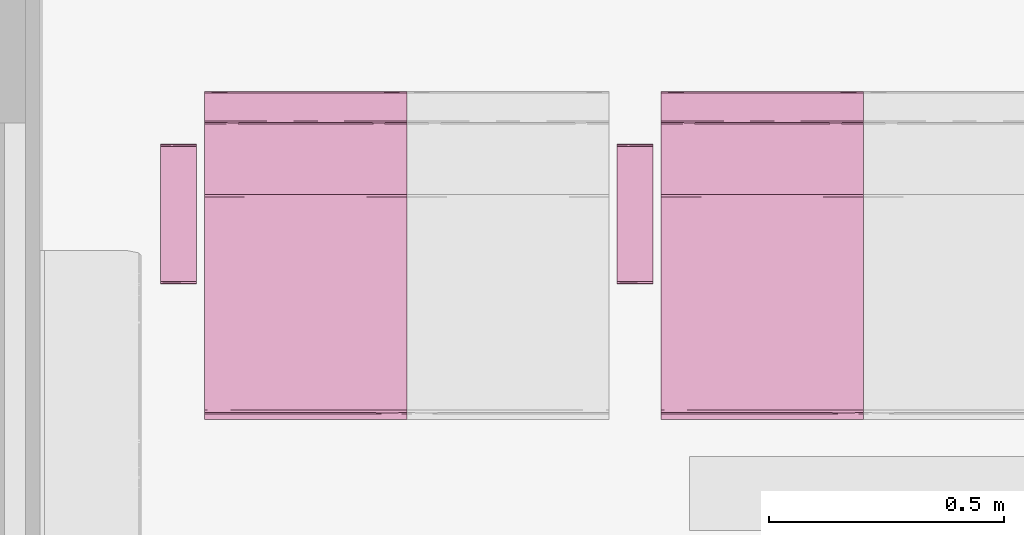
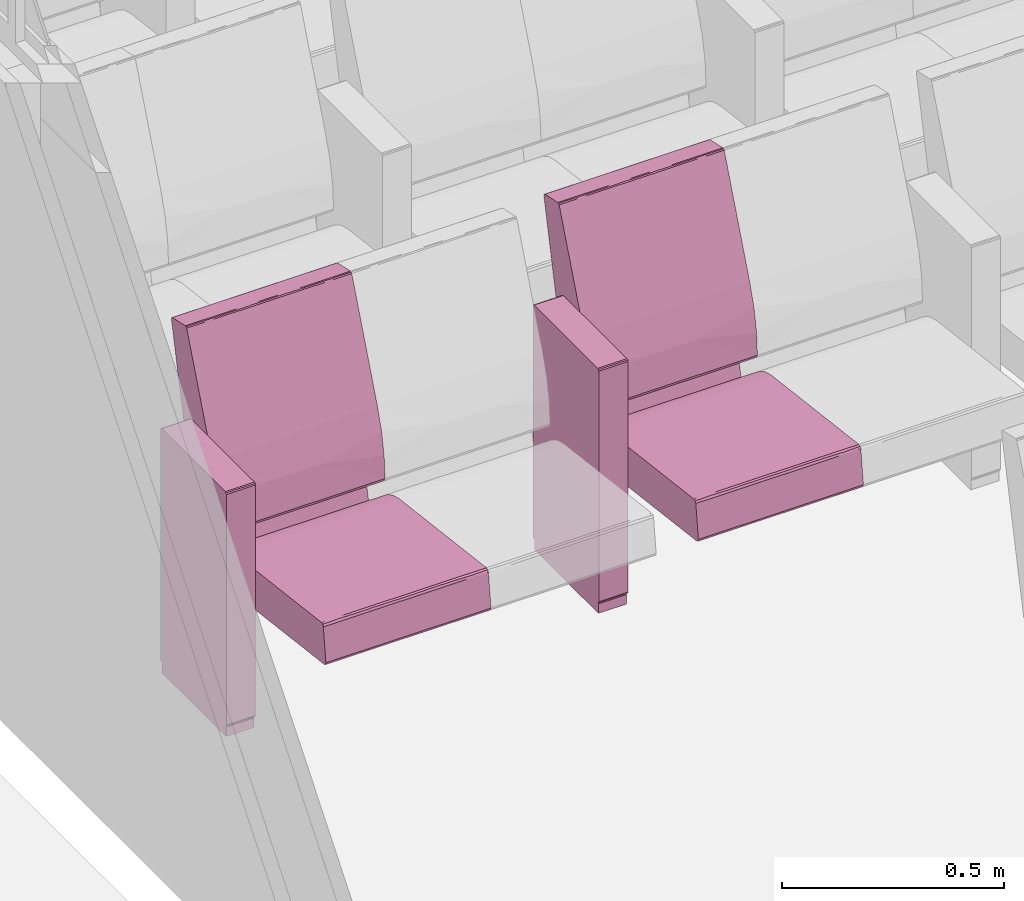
# One storey, part 80 of 155: 2 furnishings.
"""IFC2X3 building model written with IfcOpenShell, lengths in metres."""

from ifc_helpers import new_model, entity, si_unit, converted_unit, derived_unit, direction, frame, origin, place, context, subcontext, project, spatial, faceted_brep, source, transform, mapped, material, material_list, type_object, type_shapes, element, save


model = new_model("IFC2X3")

# Units and contexts
model_context = context("Model", 3, precision=1e-05, world=origin(), true_north=direction((6.12303176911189e-17, 1.0)))
body_context = subcontext(model_context, "Body", "Model", "MODEL_VIEW")
ifc_project = project(units=[si_unit("LENGTHUNIT", "METRE"), si_unit("AREAUNIT", "SQUARE_METRE"), si_unit("VOLUMEUNIT", "CUBIC_METRE"), converted_unit("PLANEANGLEUNIT", "DEGREE", entity("IfcRatioMeasure", 0.0174532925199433), si_unit("PLANEANGLEUNIT", "RADIAN"), dimensions=[0, 0, 0, 0, 0, 0, 0]), si_unit("MASSUNIT", "GRAM", prefix="KILO"), derived_unit("MASSDENSITYUNIT", [(si_unit("MASSUNIT", "GRAM", prefix="KILO"), 1), (si_unit("LENGTHUNIT", "METRE"), -3)]), si_unit("TIMEUNIT", "SECOND"), si_unit("FREQUENCYUNIT", "HERTZ"), si_unit("THERMODYNAMICTEMPERATUREUNIT", "DEGREE_CELSIUS"), derived_unit("THERMALTRANSMITTANCEUNIT", [(si_unit("MASSUNIT", "GRAM", prefix="KILO"), 1), (si_unit("THERMODYNAMICTEMPERATUREUNIT", "KELVIN"), -1), (si_unit("TIMEUNIT", "SECOND"), -3)]), derived_unit("VOLUMETRICFLOWRATEUNIT", [(si_unit("LENGTHUNIT", "METRE"), 3), (si_unit("TIMEUNIT", "SECOND"), -1)]), si_unit("ELECTRICCURRENTUNIT", "AMPERE"), si_unit("ELECTRICVOLTAGEUNIT", "VOLT"), si_unit("POWERUNIT", "WATT"), si_unit("FORCEUNIT", "NEWTON", prefix="KILO"), si_unit("ILLUMINANCEUNIT", "LUX"), si_unit("LUMINOUSFLUXUNIT", "LUMEN"), si_unit("LUMINOUSINTENSITYUNIT", "CANDELA"), derived_unit("USERDEFINED", [(si_unit("MASSUNIT", "GRAM", prefix="KILO"), -1), (si_unit("LENGTHUNIT", "METRE"), -2), (si_unit("TIMEUNIT", "SECOND"), 3), (si_unit("LUMINOUSFLUXUNIT", "LUMEN"), 1)]), derived_unit("LINEARVELOCITYUNIT", [(si_unit("LENGTHUNIT", "METRE"), 1), (si_unit("TIMEUNIT", "SECOND"), -1)]), si_unit("PRESSUREUNIT", "PASCAL"), derived_unit("USERDEFINED", [(si_unit("LENGTHUNIT", "METRE"), -2), (si_unit("MASSUNIT", "GRAM", prefix="KILO"), 1), (si_unit("TIMEUNIT", "SECOND"), -2)])], contexts=[model_context])

# Site, building, storey, space
site_placement = place(None, frame((26.9889013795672, -17.5624287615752, 0.0)))
site = spatial("IfcSite", under=ifc_project, at=site_placement, Name="Default", CompositionType="ELEMENT")
building_placement = place(site_placement, origin())
building = spatial("IfcBuilding", under=site, at=building_placement, Name="C. C. L. Monsenhor Antônio Sampaio", CompositionType="ELEMENT")
storey_placement = place(building_placement, frame((0.0, 0.0, 1.19999999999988)))
storey = spatial("IfcBuildingStorey", under=building, at=storey_placement, Name="Nível 1.2", CompositionType="ELEMENT", Elevation=1.19999999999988)
space_placement = place(storey_placement, origin())
space = spatial("IfcSpace", under=storey, at=space_placement, Name="94", CompositionType="ELEMENT", InteriorOrExteriorSpace="INTERNAL")

# Furnishings
ifc_material_1 = material(Name="V9 - V9 - Ecopelle_672_658")
ifc_material_2 = material(Name="V9 - V9 - RAL_9006_Grigio")
ifc_material_list_1 = material_list([ifc_material_1, ifc_material_2])
ifc_material_list_2 = material_list([ifc_material_1, ifc_material_2])
furniture_type = type_object("IfcFurnitureType", Name="Cadeira auditório", material=ifc_material_list_2)
shared_shape = source(origin(), body_context, "Body", "Brep", [
    faceted_brep([(0.405536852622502, 0.156348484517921, 0.339809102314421), (0.410560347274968, 0.131924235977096, 0.34246450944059), (0.405536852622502, 0.1075, 0.339809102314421), (0.405536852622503, 0.0537499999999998, 0.339809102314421), (0.410597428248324, 0.084060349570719, 0.342506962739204), (0.41079981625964, 0.0179166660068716, 0.342749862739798), (0.405536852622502, 0.215, 0.339809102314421), (0.410248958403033, 0.173608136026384, 0.342130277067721), (0.412515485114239, 0.185674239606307, 0.348529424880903), (0.412515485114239, 0.143333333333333, 0.348529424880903), (0.410560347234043, -0.131924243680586, 0.342464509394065), (0.405536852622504, -0.156348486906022, 0.33980910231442), (0.405536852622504, -0.1075, 0.33980910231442), (0.405536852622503, 0.0, 0.33980910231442), (0.41251548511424, 0.0, 0.348529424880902), (0.411170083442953, -0.0341365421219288, 0.343251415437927), (0.41059742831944, -0.0840603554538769, 0.342506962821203), (0.41251548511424, -0.143333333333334, 0.348529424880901), (0.412515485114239, 0.0358333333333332, 0.348529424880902), (0.412515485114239, 0.0716666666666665, 0.348529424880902), (0.405536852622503, -0.0537500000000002, 0.33980910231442), (0.412515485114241, -0.185674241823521, 0.348529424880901), (0.410799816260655, -0.215, 0.342749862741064), (0.410248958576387, -0.173608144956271, 0.342130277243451), (0.410799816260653, 0.215, 0.342749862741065), (0.412515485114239, 0.215, 0.348529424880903), (0.412515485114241, -0.215, 0.348529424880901), (0.41251548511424, -0.0716666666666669, 0.348529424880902), (0.405536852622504, -0.215, 0.33980910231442), (-0.0557900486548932, -0.215, 0.28268145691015), (-0.055790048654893, -0.168631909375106, 0.282681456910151), (-0.0557900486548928, -0.138065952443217, 0.282681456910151), (-0.0557900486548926, -0.107499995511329, 0.282681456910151), (-0.0557900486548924, -0.0806249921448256, 0.282681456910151), (-0.0557900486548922, -0.0537499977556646, 0.282681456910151), (-0.0557900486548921, -0.0268750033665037, 0.282681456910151), (-0.0557900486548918, 0.0, 0.28268145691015), (-0.0557900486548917, 0.0268749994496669, 0.282681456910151), (-0.0557900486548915, 0.0537499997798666, 0.282681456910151), (-0.0557900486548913, 0.0806250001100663, 0.282681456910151), (-0.0557900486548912, 0.107499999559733, 0.282681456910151), (-0.055790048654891, 0.134374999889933, 0.282681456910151), (-0.0557900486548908, 0.161250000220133, 0.282681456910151), (-0.0557900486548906, 0.1881249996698, 0.282681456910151), (-0.0557900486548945, 0.215, 0.28268145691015), (-0.0594787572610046, -0.0152829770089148, 0.283700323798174), (-0.0613666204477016, 0.0, 0.287029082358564), (-0.0594787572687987, 0.0179017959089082, 0.283700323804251), (-0.0613666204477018, 0.191815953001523, 0.287029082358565), (-0.0613666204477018, 0.215, 0.287029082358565), (-0.0594787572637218, 0.215, 0.283700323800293), (-0.0593340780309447, 0.0671874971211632, 0.283591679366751), (-0.0613666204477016, 0.030565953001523, 0.287029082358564), (-0.0594787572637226, -0.215, 0.283700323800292), (-0.0593337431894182, -0.184174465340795, 0.283591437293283), (-0.0613666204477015, -0.122263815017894, 0.287029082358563), (-0.0613666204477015, -0.0916978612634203, 0.287029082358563), (-0.0613666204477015, -0.0611319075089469, 0.287029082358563), (-0.0593023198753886, -0.0940625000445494, 0.283568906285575), (-0.059382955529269, 0.118123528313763, 0.28362747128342), (-0.0613666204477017, 0.122263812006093, 0.287029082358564), (-0.0597338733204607, 0.147039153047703, 0.283913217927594), (-0.0613666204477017, 0.168631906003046, 0.287029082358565), (-0.0592501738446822, 0.180223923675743, 0.283532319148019), (-0.0588783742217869, 0.0926899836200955, 0.283298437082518), (-0.0613666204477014, -0.215, 0.287029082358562), (-0.0613666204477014, -0.168631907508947, 0.287029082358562), (-0.0592576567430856, -0.123736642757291, 0.283537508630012), (-0.0594787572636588, -0.153348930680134, 0.283700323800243), (-0.0613666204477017, 0.0916978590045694, 0.287029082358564), (-0.0613666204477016, -0.0305659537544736, 0.287029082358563), (-0.059645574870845, -0.045848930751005, 0.283836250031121), (-0.0613666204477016, 0.0611319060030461, 0.287029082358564), (-0.069340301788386, -0.215, 0.351419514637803), (-0.0693403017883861, -0.143333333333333, 0.351419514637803), (-0.0693403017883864, -0.0716666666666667, 0.351419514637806), (-0.0693403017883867, 0.0, 0.351419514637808), (-0.069340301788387, 0.0716666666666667, 0.351419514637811), (-0.0693403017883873, 0.143333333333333, 0.351419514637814), (-0.0693403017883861, 0.215, 0.351419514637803), (-0.0597085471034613, 0.0, 0.37476954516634), (-0.0645543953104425, 0.112272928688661, 0.369803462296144), (-0.0653387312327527, 0.0126787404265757, 0.368680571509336), (-0.0681665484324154, -0.0888707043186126, 0.36292533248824), (-0.0655136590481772, -0.10440004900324, 0.368411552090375), (-0.0694879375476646, 0.0590582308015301, 0.356377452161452), (-0.0695056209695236, -0.125492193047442, 0.356093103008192), (-0.0597085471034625, -0.110316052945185, 0.374769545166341), (-0.0690003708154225, 0.132942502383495, 0.359900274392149), (-0.0672851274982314, 0.108066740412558, 0.365148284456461), (-0.0676206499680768, 0.215, 0.364371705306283), (-0.0686241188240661, 0.215, 0.356813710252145), (-0.0686241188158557, -0.214999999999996, 0.356813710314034), (-0.0686999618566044, 0.0358333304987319, 0.36116674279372), (-0.0694502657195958, -0.0358333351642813, 0.356863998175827), (-0.0676206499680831, -0.214999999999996, 0.364371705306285), (-0.0636645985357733, -0.214999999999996, 0.369570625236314), (-0.0597085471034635, -0.214999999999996, 0.374769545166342), (-0.0597085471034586, 0.215, 0.374769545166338), (-0.0636645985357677, 0.215, 0.36957062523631), (-0.0597085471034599, 0.110316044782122, 0.374769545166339), (-0.0324117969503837, 0.215, 0.390639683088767), (-0.0324117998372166, 0.0436847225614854, 0.39063968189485), (-0.0018793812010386, 0.215, 0.398686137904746), (-0.041847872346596, -0.0856576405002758, 0.386239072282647), (-0.0324117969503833, -0.215, 0.390639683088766), (-0.00187938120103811, -0.215, 0.398686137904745), (-0.00187938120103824, -0.102488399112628, 0.398686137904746), (-0.0219042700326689, -0.0570631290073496, 0.394412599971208), (-0.00187938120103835, 0.0, 0.398686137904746), (0.392202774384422, 0.215, 0.447486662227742), (0.392202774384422, -0.215, 0.447486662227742), (0.392202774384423, -0.156349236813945, 0.447486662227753), (0.392202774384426, -0.107499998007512, 0.447486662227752), (0.392202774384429, -0.0537500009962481, 0.44748666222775), (0.392202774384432, 0.0, 0.447486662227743), (0.392202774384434, 0.0537499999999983, 0.447486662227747), (0.392202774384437, 0.107499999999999, 0.447486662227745), (0.392202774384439, 0.156349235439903, 0.447486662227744), (0.398104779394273, -0.131924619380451, 0.445856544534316), (0.401125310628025, -0.0976984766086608, 0.440530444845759), (0.397860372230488, -0.0827732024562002, 0.446039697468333), (0.401125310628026, -0.215000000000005, 0.440530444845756), (0.401125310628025, -0.156349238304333, 0.440530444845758), (0.397373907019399, -0.173462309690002, 0.446363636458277), (0.398104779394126, -0.215000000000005, 0.445856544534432), (0.397860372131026, 0.0827731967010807, 0.446039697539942), (0.398104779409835, 0.131924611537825, 0.445856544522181), (0.398104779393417, -0.0237489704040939, 0.445856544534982), (0.398104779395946, 0.0268749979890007, 0.445856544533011), (0.401125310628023, 0.0488492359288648, 0.440530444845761), (0.401125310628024, -0.0488492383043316, 0.440530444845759), (0.398774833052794, 0.173462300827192, 0.445271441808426), (0.401125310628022, 0.097698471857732, 0.440530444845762), (0.401125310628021, 0.215, 0.440530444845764), (0.39810477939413, 0.215, 0.445856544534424), (0.401125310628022, 0.156349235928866, 0.440530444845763), (0.401125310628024, 0.0, 0.44053044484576)], [[[0, 1, 2]], [[3, 4, 5]], [[6, 7, 0]], [[7, 8, 9]], [[10, 11, 12]], [[3, 5, 13]], [[14, 15, 5]], [[16, 17, 10]], [[9, 1, 7]], [[18, 5, 4]], [[4, 9, 19, 18]], [[9, 4, 1]], [[2, 1, 4]], [[13, 15, 20]], [[21, 22, 23]], [[5, 18, 14]], [[24, 25, 8]], [[22, 21, 26]], [[24, 7, 6]], [[23, 11, 10]], [[20, 15, 16]], [[3, 2, 4]], [[14, 27, 15]], [[5, 15, 13]], [[27, 17, 16]], [[10, 12, 16]], [[21, 23, 17]], [[20, 16, 12]], [[15, 27, 16]], [[7, 1, 0]], [[28, 11, 23]], [[8, 7, 24]], [[23, 10, 17]], [[28, 23, 22]], [[28, 29, 30, 31, 32, 33, 34, 35, 36, 37, 38, 39, 40, 41, 42, 43, 44, 6, 0, 2, 3, 13, 20, 12, 11]], [[45, 46, 47]], [[48, 49, 50]], [[51, 47, 52]], [[29, 53, 54]], [[55, 56, 57, 58]], [[59, 60, 61]], [[61, 62, 63]], [[51, 64, 39]], [[65, 66, 54]], [[31, 67, 32]], [[45, 47, 38, 37, 36, 35]], [[68, 31, 30]], [[43, 50, 44]], [[63, 42, 61]], [[48, 50, 63]], [[64, 69, 59]], [[68, 54, 66]], [[63, 62, 48]], [[50, 43, 63]], [[67, 55, 58]], [[61, 42, 41]], [[45, 70, 46]], [[55, 68, 66]], [[71, 33, 58]], [[71, 57, 70]], [[41, 40, 59]], [[60, 62, 61]], [[71, 35, 34, 33]], [[35, 71, 45]], [[47, 46, 52]], [[45, 71, 70]], [[58, 57, 71]], [[32, 58, 33]], [[31, 68, 67]], [[54, 68, 30]], [[29, 54, 30]], [[54, 53, 65]], [[55, 67, 68]], [[32, 67, 58]], [[51, 52, 72, 69]], [[43, 42, 63]], [[41, 59, 61]], [[47, 51, 38]], [[40, 39, 64]], [[38, 51, 39]], [[69, 60, 59]], [[69, 64, 51]], [[40, 64, 59]], [[65, 73, 74, 75, 76, 77, 78, 79, 49, 48, 62, 60, 69, 72, 52, 46, 70, 57, 56, 55, 66]], [[80, 81, 82]], [[82, 83, 84]], [[78, 77, 76, 85]], [[86, 75, 74]], [[84, 80, 82]], [[80, 84, 87]], [[88, 89, 90]], [[91, 79, 78]], [[74, 73, 92]], [[85, 88, 91]], [[81, 89, 82]], [[93, 94, 83]], [[94, 86, 83]], [[85, 76, 94]], [[92, 86, 74]], [[85, 94, 93]], [[83, 92, 95]], [[75, 94, 76]], [[93, 83, 82]], [[95, 96, 84]], [[88, 85, 93]], [[96, 97, 87]], [[98, 99, 100]], [[78, 85, 91]], [[89, 88, 93]], [[90, 91, 88]], [[93, 82, 89]], [[81, 99, 89]], [[99, 90, 89]], [[100, 81, 80]], [[100, 99, 81]], [[83, 86, 92]], [[75, 86, 94]], [[95, 84, 83]], [[87, 84, 96]], [[101, 102, 103]], [[104, 80, 87, 97]], [[105, 106, 107]], [[107, 108, 105]], [[103, 102, 109]], [[104, 102, 80]], [[104, 108, 102]], [[98, 102, 101]], [[105, 104, 97]], [[105, 108, 104]], [[102, 98, 100, 80]], [[109, 108, 107]], [[109, 102, 108]], [[110, 103, 109, 107, 106, 111, 112, 113, 114, 115, 116, 117, 118]], [[119, 120, 121]], [[122, 123, 124]], [[111, 125, 124]], [[117, 116, 126]], [[124, 119, 112]], [[113, 112, 119]], [[127, 118, 117]], [[115, 114, 128, 129, 116]], [[129, 130, 126]], [[121, 131, 128]], [[127, 132, 118]], [[110, 118, 132]], [[127, 126, 133]], [[119, 124, 123]], [[134, 135, 132]], [[136, 132, 127]], [[120, 119, 123]], [[133, 136, 127]], [[137, 130, 129, 128, 131]], [[126, 127, 117]], [[130, 133, 126]], [[113, 119, 121]], [[129, 126, 116]], [[128, 114, 121]], [[114, 113, 121]], [[131, 121, 120]], [[111, 124, 112]], [[124, 125, 122]], [[134, 132, 136]], [[132, 135, 110]], [[19, 9, 8, 25, 134, 136, 133, 130, 137, 131, 120, 123, 122, 26, 21, 17, 27, 14, 18]], [[65, 53, 29, 28, 22, 26, 122, 125, 111, 106, 105, 97, 96, 95, 92, 73]], [[98, 101, 103, 110, 135, 134, 25, 24, 6, 44, 50, 49, 79, 91, 90, 99]]]),
    faceted_brep([(0.123144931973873, -0.283972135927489, 0.673627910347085), (0.12334838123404, -0.259944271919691, 0.6734355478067), (0.119812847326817, -0.27, 0.674900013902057), (0.124812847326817, -0.27, 0.669900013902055), (0.12334838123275, -0.232, 0.673435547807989), (0.119812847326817, -0.232, 0.674900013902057), (0.124812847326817, -0.308, 0.669900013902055), (0.119812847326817, -0.308, 0.674900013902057), (0.124812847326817, -0.249888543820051, 0.669900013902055), (0.124812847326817, -0.232, 0.669900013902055), (0.12334838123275, -0.308, 0.673435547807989), (0.124812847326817, -0.27, 0.035), (0.124812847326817, -0.232, 0.035), (0.124812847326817, -0.308, 0.0350000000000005), (0.123540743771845, -0.283972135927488, 0.0316679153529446), (0.12334838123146, -0.25994427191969, 0.0314644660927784), (0.119812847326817, -0.27, 0.0300000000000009), (0.12334838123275, -0.232, 0.0314644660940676), (0.119812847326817, -0.308, 0.0300000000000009), (0.119812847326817, -0.249888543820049, 0.030000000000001), (0.119812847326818, -0.232, 0.030000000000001), (0.123348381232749, -0.308, 0.0314644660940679), (-0.167179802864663, -0.308, 0.0300000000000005), (-0.167179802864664, -0.27, 0.0300000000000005), (-0.167179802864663, -0.232, 0.0300000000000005), (-0.17051188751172, -0.283972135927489, 0.0312721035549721), (-0.170715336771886, -0.25994427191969, 0.0314644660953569), (-0.172179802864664, -0.27, 0.0350000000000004), (-0.170715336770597, -0.232, 0.0314644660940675), (-0.172179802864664, -0.308, 0.0350000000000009), (-0.172179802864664, -0.24988854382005, 0.0350000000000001), (-0.172179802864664, -0.232, 0.0349999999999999), (-0.170715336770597, -0.308, 0.0314644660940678), (-0.172179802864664, -0.308, 0.669900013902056), (-0.172179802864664, -0.27, 0.669900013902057), (-0.172179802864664, -0.232, 0.669900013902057), (-0.170907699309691, -0.283972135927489, 0.673232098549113), (-0.170715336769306, -0.259944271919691, 0.673435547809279), (-0.167179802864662, -0.27, 0.674900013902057), (-0.170715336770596, -0.232, 0.67343554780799), (-0.167179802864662, -0.308, 0.674900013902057), (-0.167179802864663, -0.249888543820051, 0.674900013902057), (-0.167179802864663, -0.232, 0.674900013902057), (-0.170715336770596, -0.308, 0.67343554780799)], [[[0, 1, 2]], [[1, 0, 3]], [[1, 4, 5, 2]], [[6, 3, 0]], [[7, 0, 2]], [[4, 1, 3, 8, 9]], [[10, 0, 7]], [[0, 10, 6]], [[11, 12, 9, 8, 3, 6, 13]], [[14, 15, 11]], [[15, 14, 16]], [[15, 17, 12, 11]], [[18, 16, 14]], [[13, 14, 11]], [[17, 15, 16, 19, 20]], [[21, 14, 13]], [[14, 21, 18]], [[18, 22, 23, 24, 20, 19, 16]], [[25, 26, 23]], [[26, 25, 27]], [[26, 28, 24, 23]], [[29, 27, 25]], [[22, 25, 23]], [[28, 26, 27, 30, 31]], [[32, 25, 22]], [[25, 32, 29]], [[27, 29, 33, 34, 35, 31, 30]], [[36, 37, 34]], [[37, 36, 38]], [[37, 39, 35, 34]], [[40, 38, 36]], [[33, 36, 34]], [[39, 37, 38, 41, 42]], [[43, 36, 33]], [[36, 43, 40]], [[40, 7, 2, 5, 42, 41, 38]], [[35, 39, 42, 5, 4, 9, 12, 17, 20, 24, 28, 31]], [[29, 32, 22, 18, 21, 13, 6, 10, 7, 40, 43, 33]]]),
    faceted_brep([(-0.0695672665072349, 0.215, 0.476508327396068), (-0.074405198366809, 0.0524423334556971, 0.506888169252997), (-0.0655618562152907, 0.215, 0.415143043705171), (-0.0744051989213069, -0.0780075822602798, 0.506888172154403), (-0.0655618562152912, 0.0, 0.415143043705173), (-0.0655618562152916, -0.215, 0.415143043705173), (-0.0655618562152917, -0.1075, 0.415143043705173), (-0.0655618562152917, 0.1075, 0.415143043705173), (-0.0695672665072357, -0.215, 0.476508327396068), (-0.081111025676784, -0.215, 0.536911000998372), (-0.0811110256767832, 0.215, 0.536911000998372), (-0.100016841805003, 0.215, 0.595428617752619), (-0.100016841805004, 0.0, 0.595428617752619), (-0.100016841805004, -0.215, 0.595428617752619), (-0.0698317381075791, 0.0358333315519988, 0.406528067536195), (-0.0792851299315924, 0.0, 0.404772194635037), (-0.0792851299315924, 0.0716666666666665, 0.404772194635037), (-0.0792851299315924, -0.215, 0.404772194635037), (-0.0792851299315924, -0.143333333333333, 0.404772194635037), (-0.0698317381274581, -0.215, 0.406528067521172), (-0.0792851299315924, 0.143333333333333, 0.404772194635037), (-0.0792851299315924, 0.215, 0.404772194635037), (-0.0698317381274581, 0.215, 0.406528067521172), (-0.0694171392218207, 0.140338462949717, 0.406857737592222), (-0.0708115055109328, -0.0356393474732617, 0.405868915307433), (-0.0703502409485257, -0.107500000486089, 0.406159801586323), (-0.0792851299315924, -0.0716666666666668, 0.404772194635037), (-0.163837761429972, -0.215, 0.420611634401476), (-0.163837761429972, 0.215, 0.420611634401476), (-0.123612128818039, 0.215, 0.235917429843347), (-0.123612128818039, -0.215, 0.235917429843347), (-0.142059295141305, -0.215, 0.231899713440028), (-0.142059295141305, 0.215, 0.231899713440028), (-0.235388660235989, -0.215, 0.652619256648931), (-0.235388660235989, 0.215, 0.652619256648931), (-0.28428001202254, -0.215, 0.873004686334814), (-0.284280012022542, -0.191295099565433, 0.873004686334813), (-0.284280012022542, -0.161249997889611, 0.873004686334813), (-0.284280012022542, -0.134374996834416, 0.873004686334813), (-0.284280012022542, -0.107499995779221, 0.873004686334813), (-0.284280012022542, -0.0806249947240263, 0.873004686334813), (-0.284280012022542, -0.0537499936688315, 0.873004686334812), (-0.284280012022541, -0.0268749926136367, 0.873004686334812), (-0.28428001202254, 0.0, 0.873004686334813), (-0.284280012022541, 0.0268749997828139, 0.873004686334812), (-0.284280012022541, 0.0537500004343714, 0.873004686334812), (-0.284280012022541, 0.0806250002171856, 0.873004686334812), (-0.284280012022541, 0.1075, 0.873004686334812), (-0.284280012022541, 0.134374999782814, 0.873004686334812), (-0.28428001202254, 0.161249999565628, 0.873004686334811), (-0.28428001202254, 0.191295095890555, 0.873004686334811), (-0.28428001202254, 0.215, 0.873004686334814), (-0.283746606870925, 0.0872244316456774, 0.876674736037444), (-0.283504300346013, 0.0569644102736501, 0.877068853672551), (-0.283567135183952, -0.15546176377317, 0.876973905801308), (-0.283641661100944, -0.12093750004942, 0.87685511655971), (-0.283567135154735, 0.155461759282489, 0.876973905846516), (-0.28330409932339, 0.185293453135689, 0.877344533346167), (-0.283641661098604, 0.0179166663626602, 0.876855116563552), (-0.283641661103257, -0.0136463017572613, 0.876855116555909), (-0.280514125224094, -0.0358333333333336, 0.879190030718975), (-0.280514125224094, 0.0, 0.879190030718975), (-0.280514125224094, 0.0358333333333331, 0.879190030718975), (-0.280514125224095, -0.143333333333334, 0.879190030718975), (-0.280514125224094, -0.1075, 0.879190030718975), (-0.280514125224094, -0.071666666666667, 0.879190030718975), (-0.283746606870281, -0.0872244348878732, 0.876674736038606), (-0.280514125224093, 0.0716666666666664, 0.879190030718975), (-0.280514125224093, 0.1075, 0.879190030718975), (-0.283641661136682, 0.120937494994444, 0.876855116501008), (-0.280514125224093, 0.143333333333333, 0.879190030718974), (-0.283641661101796, 0.215, 0.876855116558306), (-0.283641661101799, -0.215, 0.876855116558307), (-0.283304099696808, -0.18529345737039, 0.877344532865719), (-0.280514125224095, -0.167590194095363, 0.879190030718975), (-0.280514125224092, 0.215, 0.879190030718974), (-0.280514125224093, 0.167590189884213, 0.879190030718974), (-0.280514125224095, -0.215, 0.879190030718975), (-0.283504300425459, -0.0569644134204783, 0.8770688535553), (-0.22111253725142, 0.215, 0.892176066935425), (-0.22111253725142, -0.215, 0.892176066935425), (-0.221112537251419, -0.191815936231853, 0.892176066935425), (-0.221112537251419, -0.161250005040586, 0.892176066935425), (-0.221112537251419, -0.134375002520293, 0.892176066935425), (-0.221112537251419, -0.1075, 0.892176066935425), (-0.221112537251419, -0.080624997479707, 0.892176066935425), (-0.221112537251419, -0.0537499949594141, 0.892176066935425), (-0.221112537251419, -0.0268750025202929, 0.892176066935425), (-0.221112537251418, 0.0, 0.892176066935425), (-0.221112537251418, 0.0268750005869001, 0.892176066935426), (-0.221112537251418, 0.05375000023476, 0.892176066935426), (-0.221112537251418, 0.0806249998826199, 0.892176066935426), (-0.221112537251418, 0.10749999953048, 0.892176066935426), (-0.221112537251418, 0.13437499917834, 0.892176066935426), (-0.221112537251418, 0.16124999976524, 0.892176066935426), (-0.221112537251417, 0.19181594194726, 0.892176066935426), (-0.215419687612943, 0.0, 0.889191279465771), (-0.215419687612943, 0.0358333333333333, 0.889191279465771), (-0.217722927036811, 0.0162353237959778, 0.891719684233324), (-0.217722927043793, -0.0134375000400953, 0.891719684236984), (-0.215419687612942, -0.191815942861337, 0.889191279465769), (-0.215419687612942, -0.168631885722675, 0.889191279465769), (-0.217722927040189, -0.182482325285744, 0.891719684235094), (-0.217722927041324, -0.215, 0.891719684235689), (-0.215419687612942, -0.215, 0.889191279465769), (-0.215419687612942, -0.1075, 0.88919127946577), (-0.215419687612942, -0.0716666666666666, 0.88919127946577), (-0.217722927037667, -0.0912646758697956, 0.891719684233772), (-0.217722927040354, -0.120937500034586, 0.89171968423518), (-0.215419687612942, -0.143333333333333, 0.88919127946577), (-0.215419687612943, 0.191815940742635, 0.889191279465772), (-0.215419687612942, 0.215, 0.889191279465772), (-0.217722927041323, 0.215, 0.89171968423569), (-0.217722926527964, 0.190103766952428, 0.891719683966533), (-0.217722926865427, 0.0912646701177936, 0.891719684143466), (-0.217816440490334, 0.0647800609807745, 0.891767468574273), (-0.215419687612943, 0.0716666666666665, 0.889191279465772), (-0.217816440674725, -0.0647800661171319, 0.891767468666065), (-0.2179983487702, -0.0390825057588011, 0.891853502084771), (-0.217558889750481, -0.155982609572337, 0.891629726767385), (-0.217722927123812, 0.120937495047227, 0.891719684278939), (-0.215419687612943, 0.16863188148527, 0.889191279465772), (-0.215419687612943, 0.143333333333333, 0.889191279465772), (-0.217558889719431, 0.15598260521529, 0.891629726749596), (-0.215419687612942, -0.0358333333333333, 0.889191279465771), (-0.215419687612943, 0.1075, 0.889191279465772), (-0.218257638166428, 0.0404491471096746, 0.891961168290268)], [[[0, 1, 2]], [[1, 3, 4]], [[3, 5, 6, 4]], [[1, 4, 7, 2]], [[5, 3, 8]], [[8, 3, 9]], [[0, 10, 1]], [[11, 12, 1]], [[3, 13, 9]], [[3, 12, 13]], [[11, 1, 10]], [[3, 1, 12]], [[14, 15, 16]], [[17, 18, 19]], [[20, 21, 22]], [[2, 23, 22]], [[14, 7, 4]], [[14, 24, 15]], [[6, 25, 24]], [[22, 23, 20]], [[14, 23, 7]], [[19, 6, 5]], [[4, 24, 14]], [[16, 23, 14]], [[16, 20, 23]], [[26, 25, 18]], [[25, 19, 18]], [[15, 24, 26]], [[23, 2, 7]], [[19, 25, 6]], [[26, 24, 25]], [[6, 24, 4]], [[15, 26, 18, 17, 27, 28, 21, 20, 16]], [[29, 28, 27, 30]], [[30, 31, 32, 29]], [[32, 31, 33, 34]], [[34, 33, 35, 36, 37, 38, 39, 40, 41, 42, 43, 44, 45, 46, 47, 48, 49, 50, 51]], [[52, 46, 53]], [[38, 54, 55]], [[56, 57, 49]], [[58, 59, 60, 61, 62]], [[63, 64, 55]], [[64, 65, 66]], [[52, 67, 68]], [[69, 70, 56]], [[49, 57, 50]], [[38, 55, 39]], [[71, 51, 50]], [[36, 35, 72]], [[59, 58, 44, 43, 42]], [[73, 74, 54]], [[55, 66, 39]], [[75, 57, 76]], [[77, 74, 73]], [[69, 52, 68]], [[37, 36, 73]], [[54, 74, 63]], [[56, 76, 57]], [[36, 72, 73]], [[75, 71, 57]], [[70, 76, 56]], [[52, 69, 47]], [[48, 47, 69]], [[42, 78, 59]], [[66, 55, 64]], [[50, 57, 71]], [[73, 54, 37]], [[77, 73, 72]], [[48, 69, 56]], [[56, 49, 48]], [[69, 68, 70]], [[53, 46, 45, 44]], [[58, 62, 53]], [[53, 44, 58]], [[38, 37, 54]], [[63, 55, 54]], [[78, 66, 65]], [[78, 40, 66]], [[67, 52, 53]], [[78, 42, 41, 40]], [[65, 60, 78]], [[59, 78, 60]], [[52, 47, 46]], [[40, 39, 66]], [[62, 67, 53]], [[79, 75, 76, 70, 68, 67, 62, 61, 60, 65, 64, 63, 74, 77, 80, 81, 82, 83, 84, 85, 86, 87, 88, 89, 90, 91, 92, 93, 94, 95]], [[96, 97, 98, 99]], [[100, 101, 102, 103, 104]], [[105, 106, 107, 108, 109]], [[110, 111, 112]], [[113, 112, 95]], [[114, 115, 116]], [[117, 118, 86]], [[82, 119, 83]], [[102, 82, 81, 80, 103]], [[112, 79, 95]], [[108, 107, 85, 84, 83]], [[88, 87, 99, 98, 89]], [[119, 101, 109]], [[93, 92, 120]], [[117, 85, 107]], [[113, 121, 110]], [[122, 121, 123]], [[113, 94, 123]], [[124, 99, 118]], [[122, 123, 120]], [[108, 119, 109]], [[113, 110, 112]], [[102, 101, 119]], [[119, 108, 83]], [[114, 125, 120]], [[123, 94, 93]], [[93, 120, 123]], [[114, 120, 92]], [[122, 120, 125]], [[117, 107, 106]], [[114, 92, 91]], [[116, 125, 114]], [[115, 91, 90]], [[85, 117, 86]], [[126, 89, 98]], [[117, 106, 124]], [[118, 99, 87]], [[124, 96, 99]], [[97, 116, 115]], [[97, 115, 126]], [[86, 118, 87]], [[124, 118, 117]], [[91, 115, 114]], [[115, 90, 126]], [[89, 126, 90]], [[97, 126, 98]], [[82, 102, 119]], [[94, 113, 95]], [[121, 113, 123]], [[11, 111, 110, 121, 122, 125, 116, 97, 96, 124, 106, 105, 109, 101, 100, 104, 13, 12]], [[27, 17, 19, 5, 8, 9, 13, 104, 103, 80, 77, 72, 35, 33, 31, 30]], [[51, 71, 75, 79, 112, 111, 11, 10, 0, 2, 22, 21, 28, 29, 32, 34]]]),
    faceted_brep([(0.120312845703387, -0.2335, 0.0), (0.120312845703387, -0.2335, 0.0260000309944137), (0.120312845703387, -0.249500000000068, 0.0260000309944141), (0.120312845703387, -0.27, 0.0260000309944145), (0.120312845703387, -0.3065, 0.0260000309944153), (0.120312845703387, -0.3065, 0.0), (-0.167687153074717, -0.3065, 0.0), (-0.167687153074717, -0.2335, 0.0), (-0.167687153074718, -0.27, 0.0260000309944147), (-0.167687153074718, -0.2335, 0.0260000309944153), (-0.167687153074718, -0.3065, 0.0260000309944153), (-0.166521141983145, -0.233500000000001, 0.0288228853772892), (-0.166521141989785, -0.257382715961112, 0.0288228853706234), (-0.163702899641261, -0.233500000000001, 0.0300000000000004), (-0.163702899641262, -0.3065, 0.0300000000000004), (-0.16652114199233, -0.279986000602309, 0.0288228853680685), (-0.166521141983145, -0.3065, 0.0288228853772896), (-0.163702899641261, -0.27, 0.0300000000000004), (0.116297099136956, -0.3065, 0.0300000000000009), (0.116297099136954, -0.269999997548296, 0.0300000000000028), (0.116297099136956, -0.2335, 0.0300000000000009), (0.119033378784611, -0.283124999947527, 0.0289323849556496), (0.1191357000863, -0.2335, 0.0288340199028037), (0.119135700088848, -0.259750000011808, 0.0288340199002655), (0.119135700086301, -0.3065, 0.0288340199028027)], [[[0, 1, 2, 3, 4, 5]], [[0, 5, 6, 7]], [[8, 9, 7, 6, 10]], [[11, 12, 13]], [[14, 15, 16]], [[15, 14, 17, 13, 12]], [[9, 8, 12, 11]], [[16, 15, 10]], [[8, 10, 15, 12]], [[14, 18, 19, 20, 13, 17]], [[21, 4, 3]], [[22, 20, 19, 23]], [[3, 2, 1, 22, 23]], [[24, 21, 18]], [[21, 3, 23]], [[18, 21, 19]], [[21, 24, 4]], [[21, 23, 19]], [[6, 5, 4, 24, 18, 14, 16, 10]], [[7, 9, 11, 13, 20, 22, 1, 0]]]),
])
type_shapes(furniture_type, [shared_shape])
furnishing_1_placement = place(space_placement, frame((-12.4559492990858, -16.2852332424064, 0.0), z_axis=(0.0, 0.0, 1.0), x_axis=(0.0, -1.0, 0.0)))
element("IfcFurnishingElement", 1, at=furnishing_1_placement, inside=space, type_object=furniture_type, material=ifc_material_list_1, Name="cadeira auditório pcd:Cadeira auditório", ObjectType="Cadeira auditório", context=body_context, shape_type="MappedRepresentation", body=[
    mapped(shared_shape, transform((0.0, 0.0, 0.0), scale=1.0)),
])
ifc_material_list_3 = material_list([ifc_material_1, ifc_material_2])
furnishing_2_placement = place(space_placement, frame((-13.4259492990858, -16.2852332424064, 0.0), z_axis=(0.0, 0.0, 1.0), x_axis=(0.0, -1.0, 0.0)))
element("IfcFurnishingElement", 2, at=furnishing_2_placement, inside=space, type_object=furniture_type, material=ifc_material_list_3, Name="cadeira auditório pcd:Cadeira auditório", ObjectType="Cadeira auditório", context=body_context, shape_type="MappedRepresentation", body=[
    mapped(shared_shape, transform((0.0, 0.0, 0.0), scale=1.0)),
])

save(model, "model.ifc")
